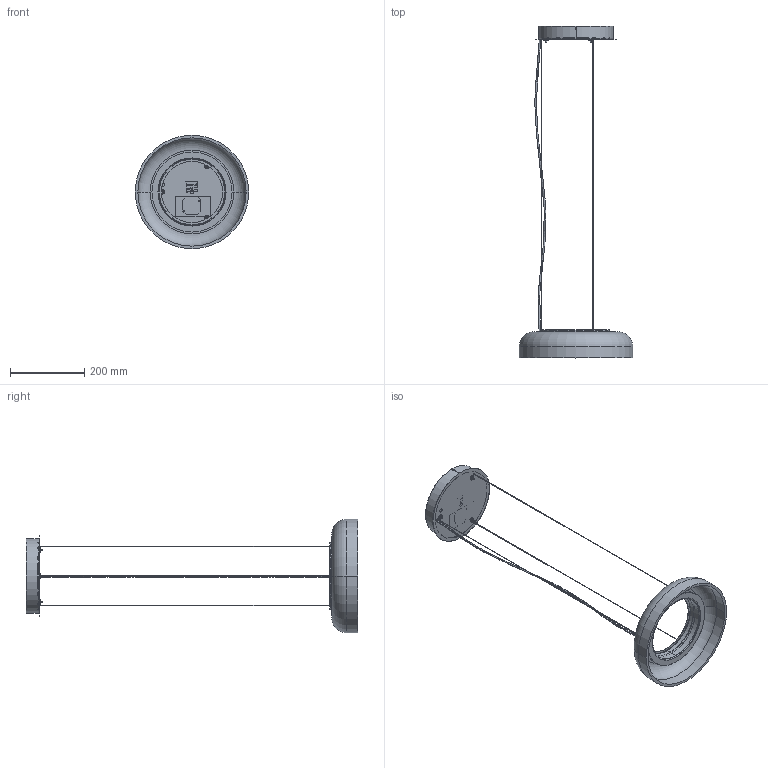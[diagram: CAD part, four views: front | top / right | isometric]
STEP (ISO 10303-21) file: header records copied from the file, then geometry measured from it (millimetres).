
FILE_DESCRIPTION (( 'STEP AP214' ), '1' );
FILE_NAME ('3d_NUT_NT.S031.14_suspension.STEP', '2025-10-15T13:10:24', ( '' ), ( '' ), 'SwSTEP 2.0', 'SolidWorks 2013', '' );
FILE_SCHEMA (( 'AUTOMOTIVE_DESIGN' ));
Length unit declared in the file: millimetre
Products named in the file (15): KO020 - SUSPENSOR M10; RE002_Suport cable acer electrif. M10; AR109_Floró ø200x35 3T 2xM4 sistema USA; KO219_Cable elèctric 2x0.35_80cm_corbat; Tira LED 550mm_29WM; Pantalla ceràmica_Ø305x70_YUMA; ME004_Suport alumini Ø213x36_NUT 305; 3d_NUT_NT.S031.14_suspension; Cable acer negre Guerin; Driver SS-30-24 LB (Olfer); Floró Ø200+embellidor+driver+suports; KO119 REGLETA 3P; Driver CV 24V 12W Dimm.Triac _Koala_G5031012A; GI228_SUP. FIXACIÓ FLORÓ USA Ø200; ME036_Disc embellidor Ø210 3T_nut
Assembly tree (18 placements, depth 3):
  3d_NUT_NT.S031.14_suspension
    ME004_Suport alumini Ø213x36_NUT 305
    Pantalla ceràmica_Ø305x70_YUMA
    Tira LED 550mm_29WM
    KO219_Cable elèctric 2x0.35_80cm_corbat
    Floró Ø200+embellidor+driver+suports
      AR109_Floró ø200x35 3T 2xM4 sistema USA
      RE002_Suport cable acer electrif. M10  x2
      KO020 - SUSPENSOR M10
      ME036_Disc embellidor Ø210 3T_nut
      GI228_SUP. FIXACIÓ FLORÓ USA Ø200
      Driver CV 24V 12W Dimm.Triac _Koala_G5031012A
      KO119 REGLETA 3P
    Driver SS-30-24 LB (Olfer)
    GI228_SUP. FIXACIÓ FLORÓ USA Ø200
    Cable acer negre Guerin  x3
Bounding box: 305 x 891.5 x 305 mm (x, y, z)
Volume: 1049972 mm3; surface area: 669507.5 mm2
Topology: 23 solids, 23 shells, 535 faces, 1266 edges, 774 vertices
Faces by surface type: cylinder 252, plane 166, torus 44, cone 30, bspline 26, sphere 17
Entity records: 14566 total; most frequent: CARTESIAN_POINT 3506, DIRECTION 2295, ORIENTED_EDGE 2074, EDGE_CURVE 1037, AXIS2_PLACEMENT_3D 911, VERTEX_POINT 638, EDGE_LOOP 515, LINE 473
